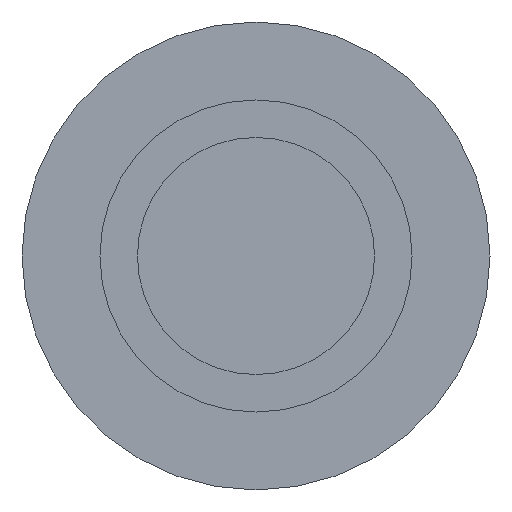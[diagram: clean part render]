
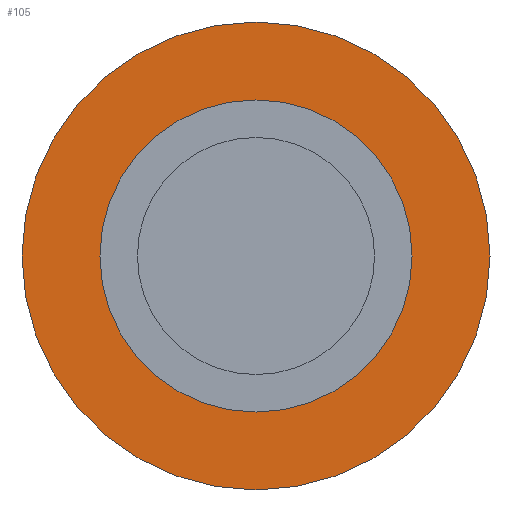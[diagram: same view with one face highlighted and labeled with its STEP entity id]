
A CAD part, front view. The second image highlights one B-rep face of the part: STEP entity #105.
In plain terms, the highlighted planar face has unit normal (0, -1, 0).
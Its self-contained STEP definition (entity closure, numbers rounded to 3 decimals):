
#22 = VERTEX_POINT('',#23);
#23 = CARTESIAN_POINT('',(88.01,62.775,-212.));
#32 = CYLINDRICAL_SURFACE('',#33,4.76);
#33 = AXIS2_PLACEMENT_3D('',#34,#35,#36);
#34 = CARTESIAN_POINT('',(83.25,62.775,-212.));
#35 = DIRECTION('',(0.,-1.,-0.));
#36 = DIRECTION('',(1.,0.,0.));
#79 = EDGE_CURVE('',#22,#22,#80,.T.);
#80 = SURFACE_CURVE('',#81,(#86,#93),.PCURVE_S1.);
#81 = CIRCLE('',#82,4.76);
#82 = AXIS2_PLACEMENT_3D('',#83,#84,#85);
#83 = CARTESIAN_POINT('',(83.25,62.775,-212.));
#84 = DIRECTION('',(-0.,1.,0.));
#85 = DIRECTION('',(1.,0.,0.));
#86 = PCURVE('',#32,#87);
#87 = DEFINITIONAL_REPRESENTATION('',(#88),#92);
#88 = LINE('',#89,#90);
#89 = CARTESIAN_POINT('',(-0.,0.));
#90 = VECTOR('',#91,1.);
#91 = DIRECTION('',(-1.,0.));
#92 = ( GEOMETRIC_REPRESENTATION_CONTEXT(2) 
PARAMETRIC_REPRESENTATION_CONTEXT() REPRESENTATION_CONTEXT('2D SPACE',''
  ) );
#93 = PCURVE('',#94,#99);
#94 = PLANE('',#95);
#95 = AXIS2_PLACEMENT_3D('',#96,#97,#98);
#96 = CARTESIAN_POINT('',(83.25,62.775,-212.));
#97 = DIRECTION('',(0.,1.,0.));
#98 = DIRECTION('',(0.,-0.,1.));
#99 = DEFINITIONAL_REPRESENTATION('',(#100),#104);
#100 = CIRCLE('',#101,4.76);
#101 = AXIS2_PLACEMENT_2D('',#102,#103);
#102 = CARTESIAN_POINT('',(0.,0.));
#103 = DIRECTION('',(0.,1.));
#104 = ( GEOMETRIC_REPRESENTATION_CONTEXT(2) 
PARAMETRIC_REPRESENTATION_CONTEXT() REPRESENTATION_CONTEXT('2D SPACE',''
  ) );
#105 = ADVANCED_FACE('',(#106,#109),#94,.F.);
#106 = FACE_BOUND('',#107,.F.);
#107 = EDGE_LOOP('',(#108));
#108 = ORIENTED_EDGE('',*,*,#79,.T.);
#109 = FACE_BOUND('',#110,.F.);
#110 = EDGE_LOOP('',(#111));
#111 = ORIENTED_EDGE('',*,*,#112,.F.);
#112 = EDGE_CURVE('',#113,#113,#115,.T.);
#113 = VERTEX_POINT('',#114);
#114 = CARTESIAN_POINT('',(86.425,62.775,-212.));
#115 = SURFACE_CURVE('',#116,(#121,#128),.PCURVE_S1.);
#116 = CIRCLE('',#117,3.175);
#117 = AXIS2_PLACEMENT_3D('',#118,#119,#120);
#118 = CARTESIAN_POINT('',(83.25,62.775,-212.));
#119 = DIRECTION('',(-0.,1.,0.));
#120 = DIRECTION('',(1.,0.,0.));
#121 = PCURVE('',#94,#122);
#122 = DEFINITIONAL_REPRESENTATION('',(#123),#127);
#123 = CIRCLE('',#124,3.175);
#124 = AXIS2_PLACEMENT_2D('',#125,#126);
#125 = CARTESIAN_POINT('',(0.,0.));
#126 = DIRECTION('',(0.,1.));
#127 = ( GEOMETRIC_REPRESENTATION_CONTEXT(2) 
PARAMETRIC_REPRESENTATION_CONTEXT() REPRESENTATION_CONTEXT('2D SPACE',''
  ) );
#128 = PCURVE('',#129,#134);
#129 = CYLINDRICAL_SURFACE('',#130,3.175);
#130 = AXIS2_PLACEMENT_3D('',#131,#132,#133);
#131 = CARTESIAN_POINT('',(83.25,5.625,-212.));
#132 = DIRECTION('',(0.,-1.,-0.));
#133 = DIRECTION('',(1.,0.,0.));
#134 = DEFINITIONAL_REPRESENTATION('',(#135),#139);
#135 = LINE('',#136,#137);
#136 = CARTESIAN_POINT('',(-0.,-57.15));
#137 = VECTOR('',#138,1.);
#138 = DIRECTION('',(-1.,0.));
#139 = ( GEOMETRIC_REPRESENTATION_CONTEXT(2) 
PARAMETRIC_REPRESENTATION_CONTEXT() REPRESENTATION_CONTEXT('2D SPACE',''
  ) );
